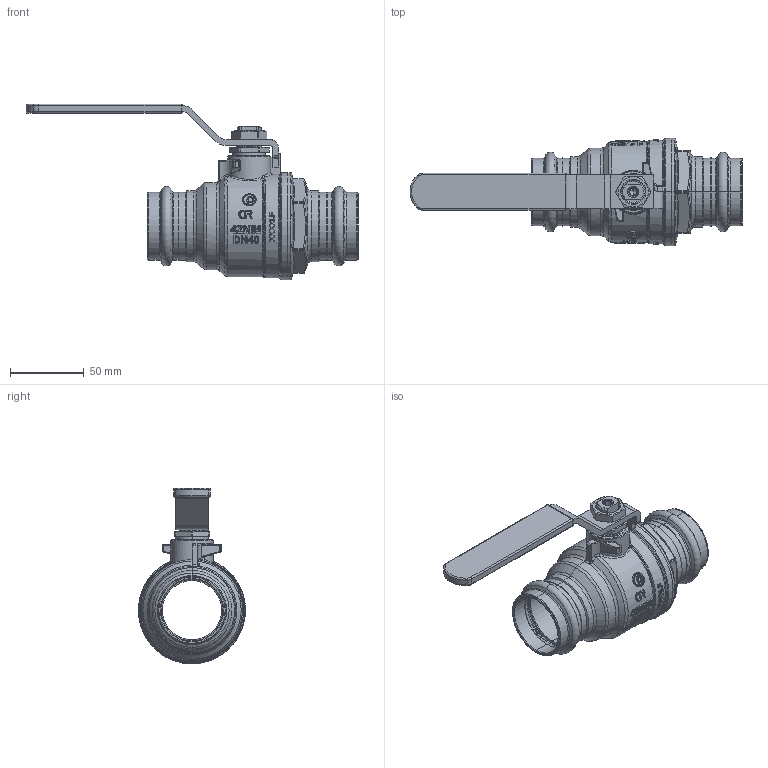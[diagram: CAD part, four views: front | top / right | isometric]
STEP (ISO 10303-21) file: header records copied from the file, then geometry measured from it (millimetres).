
FILE_DESCRIPTION(('Open CASCADE Model'),'2;1');
FILE_NAME('Open CASCADE Shape Model','2021-11-19T16:25:12',('Author'),( 'Open CASCADE'),'Open CASCADE STEP processor 7.3','Open CASCADE 7.3' ,'Unknown');
FILE_SCHEMA(('AUTOMOTIVE_DESIGN { 1 0 10303 214 1 1 1 1 }'));
Length unit declared in the file: millimetre
Products named in the file (26): Open CASCADE STEP translator 7.3 1; Open CASCADE STEP translator 7.3 1.1; Open CASCADE STEP translator 7.3 1.2; Open CASCADE STEP translator 7.3 1.3; Open CASCADE STEP translator 7.3 1.4; Open CASCADE STEP translator 7.3 1.5; Open CASCADE STEP translator 7.3 1.6; Open CASCADE STEP translator 7.3 1.7; Open CASCADE STEP translator 7.3 1.8; Open CASCADE STEP translator 7.3 1.9; Open CASCADE STEP translator 7.3 1.10; Open CASCADE STEP translator 7.3 1.11; Open CASCADE STEP translator 7.3 1.12; Open CASCADE STEP translator 7.3 1.13; Open CASCADE STEP translator 7.3 1.14; Open CASCADE STEP translator 7.3 1.15; Open CASCADE STEP translator 7.3 1.16; Open CASCADE STEP translator 7.3 1.17; Open CASCADE STEP translator 7.3 1.18; Open CASCADE STEP translator 7.3 1.19; Open CASCADE STEP translator 7.3 1.20; Open CASCADE STEP translator 7.3 1.21; Open CASCADE STEP translator 7.3 1.22; Open CASCADE STEP translator 7.3 1.23; Open CASCADE STEP translator 7.3 1.24; Open CASCADE STEP translator 7.3 1.25
Assembly tree (25 placements, depth 2):
  Open CASCADE STEP translator 7.3 1
    Open CASCADE STEP translator 7.3 1.1
    Open CASCADE STEP translator 7.3 1.2
    Open CASCADE STEP translator 7.3 1.3
    Open CASCADE STEP translator 7.3 1.4
    Open CASCADE STEP translator 7.3 1.5
    Open CASCADE STEP translator 7.3 1.6
    Open CASCADE STEP translator 7.3 1.7
    Open CASCADE STEP translator 7.3 1.8
    Open CASCADE STEP translator 7.3 1.9
    Open CASCADE STEP translator 7.3 1.10
    Open CASCADE STEP translator 7.3 1.11
    Open CASCADE STEP translator 7.3 1.12
    Open CASCADE STEP translator 7.3 1.13
    Open CASCADE STEP translator 7.3 1.14
    Open CASCADE STEP translator 7.3 1.15
    Open CASCADE STEP translator 7.3 1.16
    Open CASCADE STEP translator 7.3 1.17
    Open CASCADE STEP translator 7.3 1.18
    Open CASCADE STEP translator 7.3 1.19
    Open CASCADE STEP translator 7.3 1.20
    Open CASCADE STEP translator 7.3 1.21
    Open CASCADE STEP translator 7.3 1.22
    Open CASCADE STEP translator 7.3 1.23
    Open CASCADE STEP translator 7.3 1.24
    Open CASCADE STEP translator 7.3 1.25
Bounding box: 224.6 x 72.5 x 118.75 mm (x, y, z)
Volume: 203523.2 mm3; surface area: 126579.3 mm2
Topology: 15 solids, 25 shells, 1422 faces, 3418 edges, 2073 vertices
Faces by surface type: bspline 572, cylinder 260, plane 239, cone 125, torus 121, extrusion 67, sphere 22, revolution 16
Entity records: 195107 total; most frequent: CARTESIAN_POINT 136651, DIRECTION 7408, ORIENTED_EDGE 6766, PCURVE 6766, DEFINITIONAL_REPRESENTATION 6766, B_SPLINE_CURVE_WITH_KNOTS 5388, VECTOR 3653, LINE 3586
